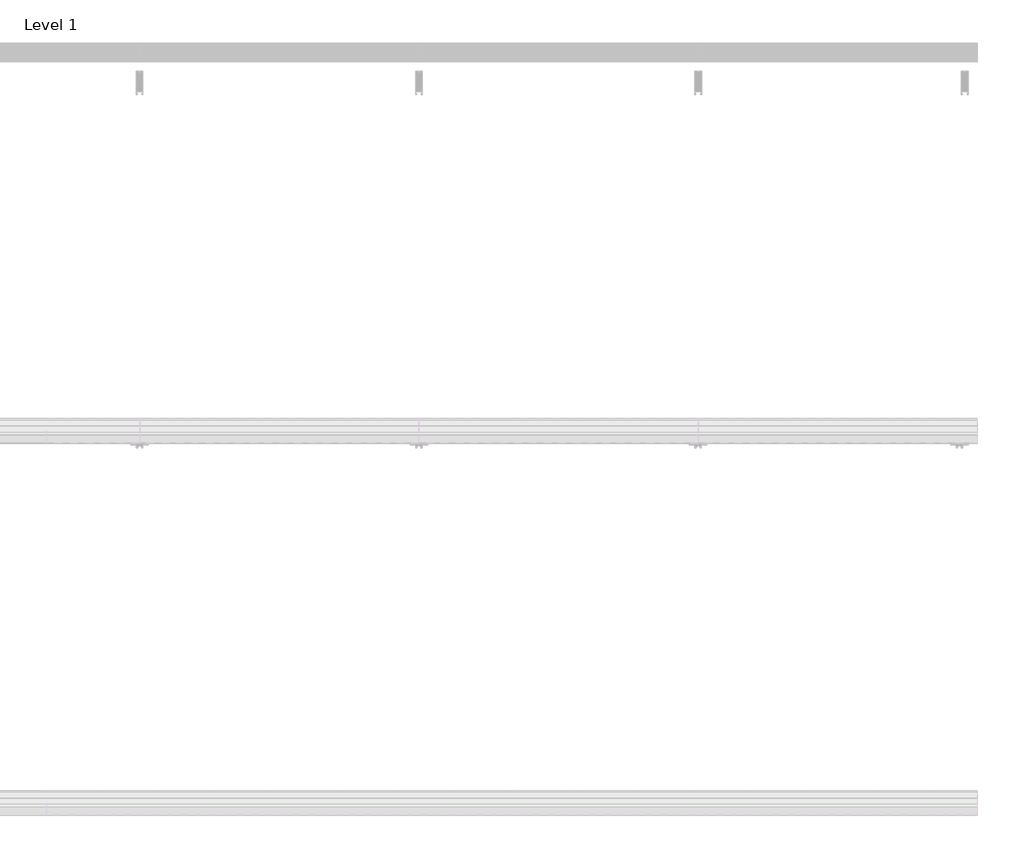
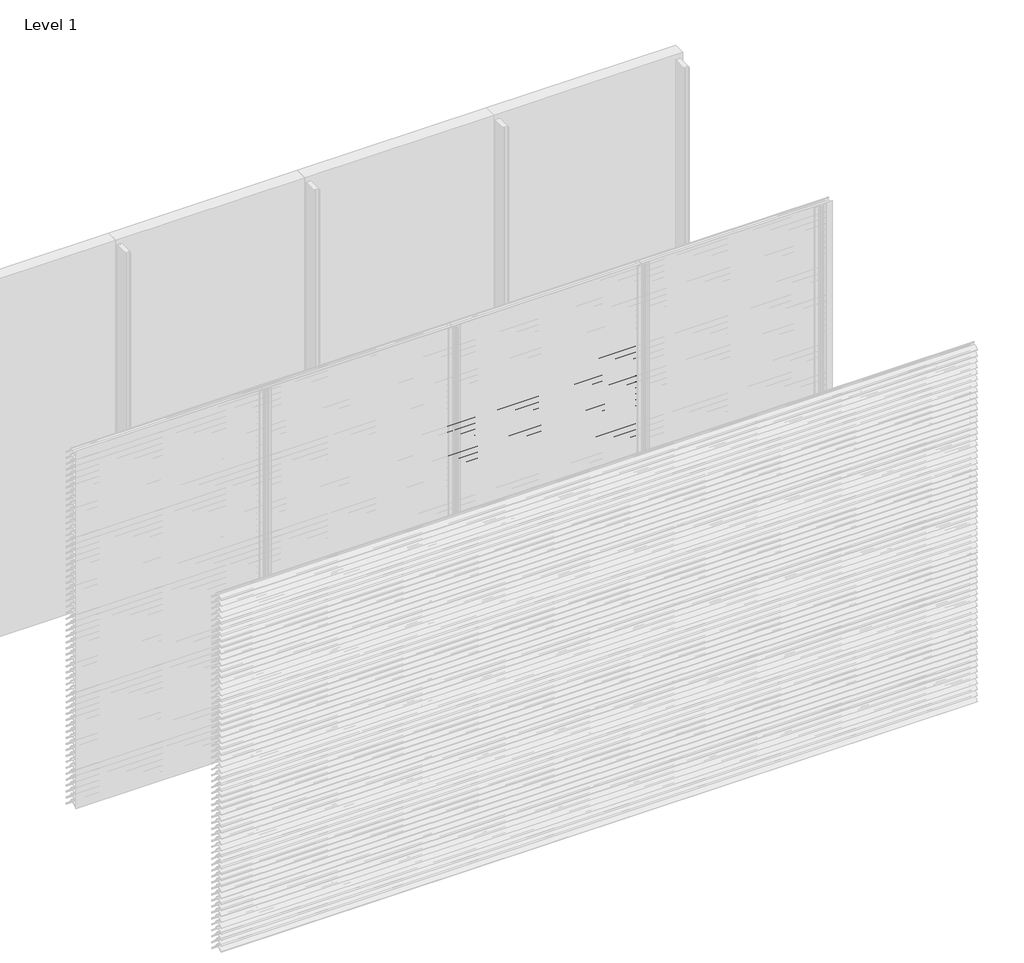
# One storey, part 14 of 173: 17 proxies.
"""IFC4 building model written with IfcOpenShell, lengths in millimetres."""

from ifc_helpers import new_model, si_unit, point, frame, frame_2d, origin, place, context, project, spatial, polyline, circle_curve, trimmed, segment, composite_curve, outline, extrude, element, save

model = new_model("IFC4")

# Units and contexts
model_context = context("Model", 3, world=origin())
ifc_project = project(units=[si_unit("LENGTHUNIT", "METRE", prefix="MILLI")], contexts=[model_context])

# Site, building, storey
site = spatial("IfcSite", under=ifc_project)
building = spatial("IfcBuilding", under=site)
storey = spatial("IfcBuildingStorey", under=building, Name="Level 1", Elevation=0.0)

# Proxies
placement = place(None, origin())
element("IfcBuildingElementProxy", 1, Name="Wall Sweeps", at=placement, inside=storey, context=model_context, shape_type="SweptSolid", body=[
    extrude(outline(composite_curve([segment(polyline([(-53998.0, 2309.1474905), (-53998.0, 2311.6227417)]), True, "CONTINUOUS"), segment(trimmed(circle_curve(frame_2d((-53951.2682172, 2266.2200208)), 65.1557103), [point((-53998.0, 2311.6227417))], [point((-53954.4014323, 2331.3003524))], False, "CARTESIAN"), True, "CONTINUOUS"), segment(polyline([(-53954.4014323, 2331.3003524), (-53934.8315836, 2331.3003524)]), True, "CONTINUOUS"), segment(trimmed(circle_curve(frame_2d((-53732.7329489, 2478.5533172)), 250.0545817), [point((-53934.8315836, 2331.3003524))], [point((-53941.4452143, 2340.8344583))], False, "CARTESIAN"), True, "CONTINUOUS"), segment(trimmed(circle_curve(frame_2d((-53953.2981792, 2335.1737835)), 13.1352966), [point((-53941.4452143, 2340.8344583))], [point((-53953.8171475, 2348.298824))], True, "CARTESIAN"), True, "CONTINUOUS"), segment(polyline([(-53953.8171475, 2348.298824), (-53953.8171475, 2350.0)]), True, "CONTINUOUS"), segment(trimmed(circle_curve(frame_2d((-53953.2981792, 2335.1737835)), 14.8352966), [point((-53953.8171475, 2350.0))], [point((-53939.9637661, 2341.6760487))], False, "CARTESIAN"), True, "CONTINUOUS"), segment(trimmed(circle_curve(frame_2d((-53732.7329489, 2478.5533172)), 248.3545817), [point((-53939.9637661, 2341.6760487))], [point((-53873.8787895, 2274.2059416))], True, "CARTESIAN"), True, "CONTINUOUS"), segment(trimmed(circle_curve(frame_2d((-53883.8147537, 2261.6649442)), 16.0), [point((-53873.8787895, 2274.2059416))], [point((-53867.8648347, 2260.4))], False, "CARTESIAN"), True, "CONTINUOUS"), segment(polyline([(-53867.8648347, 2260.4), (-53869.6712069, 2260.4)]), True, "CONTINUOUS"), segment(trimmed(circle_curve(frame_2d((-53883.8147537, 2261.6649442)), 14.2), [point((-53869.6712069, 2260.4))], [point((-53874.9518628, 2272.7594998))], True, "CARTESIAN"), True, "CONTINUOUS"), segment(trimmed(circle_curve(frame_2d((-53732.7329489, 2478.5533172)), 250.1545817), [point((-53874.9518628, 2272.7594998))], [point((-53933.7064024, 2329.6003524))], False, "CARTESIAN"), True, "CONTINUOUS"), segment(polyline([(-53933.7064024, 2329.6003524), (-53954.3602632, 2329.6003524)]), True, "CONTINUOUS"), segment(trimmed(circle_curve(frame_2d((-53951.2682172, 2266.2200208)), 63.4557103), [point((-53954.3602632, 2329.6003524))], [point((-53998.0, 2309.1474905))], True, "CARTESIAN"), True, "CONTINUOUS")], self_intersect=False)), frame((3000.0, 0.0, 0.0), z_axis=(1.0, 0.0, 0.0), x_axis=(0.0, 1.0, 0.0)), (0.0, 0.0, 1.0), 1500.0),
])
element("IfcBuildingElementProxy", 2, Name="Wall Sweeps", at=placement, inside=storey, context=model_context, shape_type="SweptSolid", body=[
    extrude(outline(composite_curve([segment(polyline([(-53998.0, 2259.1474905), (-53998.0, 2261.6227417)]), True, "CONTINUOUS"), segment(trimmed(circle_curve(frame_2d((-53951.2682172, 2216.2200208)), 65.1557103), [point((-53998.0, 2261.6227417))], [point((-53954.4014323, 2281.3003524))], False, "CARTESIAN"), True, "CONTINUOUS"), segment(polyline([(-53954.4014323, 2281.3003524), (-53934.8315836, 2281.3003524)]), True, "CONTINUOUS"), segment(trimmed(circle_curve(frame_2d((-53732.7329489, 2428.5533172)), 250.0545817), [point((-53934.8315836, 2281.3003524))], [point((-53941.4452143, 2290.8344583))], False, "CARTESIAN"), True, "CONTINUOUS"), segment(trimmed(circle_curve(frame_2d((-53953.2981792, 2285.1737835)), 13.1352966), [point((-53941.4452143, 2290.8344583))], [point((-53953.8171475, 2298.298824))], True, "CARTESIAN"), True, "CONTINUOUS"), segment(polyline([(-53953.8171475, 2298.298824), (-53953.8171475, 2300.0)]), True, "CONTINUOUS"), segment(trimmed(circle_curve(frame_2d((-53953.2981792, 2285.1737835)), 14.8352966), [point((-53953.8171475, 2300.0))], [point((-53939.9637661, 2291.6760487))], False, "CARTESIAN"), True, "CONTINUOUS"), segment(trimmed(circle_curve(frame_2d((-53732.7329489, 2428.5533172)), 248.3545817), [point((-53939.9637661, 2291.6760487))], [point((-53873.8787895, 2224.2059416))], True, "CARTESIAN"), True, "CONTINUOUS"), segment(trimmed(circle_curve(frame_2d((-53883.8147537, 2211.6649442)), 16.0), [point((-53873.8787895, 2224.2059416))], [point((-53867.8648347, 2210.4))], False, "CARTESIAN"), True, "CONTINUOUS"), segment(polyline([(-53867.8648347, 2210.4), (-53869.6712069, 2210.4)]), True, "CONTINUOUS"), segment(trimmed(circle_curve(frame_2d((-53883.8147537, 2211.6649442)), 14.2), [point((-53869.6712069, 2210.4))], [point((-53874.9518628, 2222.7594998))], True, "CARTESIAN"), True, "CONTINUOUS"), segment(trimmed(circle_curve(frame_2d((-53732.7329489, 2428.5533172)), 250.1545817), [point((-53874.9518628, 2222.7594998))], [point((-53933.7064024, 2279.6003524))], False, "CARTESIAN"), True, "CONTINUOUS"), segment(polyline([(-53933.7064024, 2279.6003524), (-53954.3602632, 2279.6003524)]), True, "CONTINUOUS"), segment(trimmed(circle_curve(frame_2d((-53951.2682172, 2216.2200208)), 63.4557103), [point((-53954.3602632, 2279.6003524))], [point((-53998.0, 2259.1474905))], True, "CARTESIAN"), True, "CONTINUOUS")], self_intersect=False)), frame((3000.0, 0.0, 0.0), z_axis=(1.0, 0.0, 0.0), x_axis=(0.0, 1.0, 0.0)), (0.0, 0.0, 1.0), 1500.0),
])
element("IfcBuildingElementProxy", 3, Name="Wall Sweeps", at=placement, inside=storey, context=model_context, shape_type="SweptSolid", body=[
    extrude(outline(composite_curve([segment(polyline([(-53998.0, 2209.1474905), (-53998.0, 2211.6227417)]), True, "CONTINUOUS"), segment(trimmed(circle_curve(frame_2d((-53951.2682172, 2166.2200208)), 65.1557103), [point((-53998.0, 2211.6227417))], [point((-53954.4014323, 2231.3003524))], False, "CARTESIAN"), True, "CONTINUOUS"), segment(polyline([(-53954.4014323, 2231.3003524), (-53934.8315836, 2231.3003524)]), True, "CONTINUOUS"), segment(trimmed(circle_curve(frame_2d((-53732.7329489, 2378.5533172)), 250.0545817), [point((-53934.8315836, 2231.3003524))], [point((-53941.4452143, 2240.8344583))], False, "CARTESIAN"), True, "CONTINUOUS"), segment(trimmed(circle_curve(frame_2d((-53953.2981792, 2235.1737835)), 13.1352966), [point((-53941.4452143, 2240.8344583))], [point((-53953.8171475, 2248.298824))], True, "CARTESIAN"), True, "CONTINUOUS"), segment(polyline([(-53953.8171475, 2248.298824), (-53953.8171475, 2250.0)]), True, "CONTINUOUS"), segment(trimmed(circle_curve(frame_2d((-53953.2981792, 2235.1737835)), 14.8352966), [point((-53953.8171475, 2250.0))], [point((-53939.9637661, 2241.6760487))], False, "CARTESIAN"), True, "CONTINUOUS"), segment(trimmed(circle_curve(frame_2d((-53732.7329489, 2378.5533172)), 248.3545817), [point((-53939.9637661, 2241.6760487))], [point((-53873.8787895, 2174.2059416))], True, "CARTESIAN"), True, "CONTINUOUS"), segment(trimmed(circle_curve(frame_2d((-53883.8147537, 2161.6649442)), 16.0), [point((-53873.8787895, 2174.2059416))], [point((-53867.8648347, 2160.4))], False, "CARTESIAN"), True, "CONTINUOUS"), segment(polyline([(-53867.8648347, 2160.4), (-53869.6712069, 2160.4)]), True, "CONTINUOUS"), segment(trimmed(circle_curve(frame_2d((-53883.8147537, 2161.6649442)), 14.2), [point((-53869.6712069, 2160.4))], [point((-53874.9518628, 2172.7594998))], True, "CARTESIAN"), True, "CONTINUOUS"), segment(trimmed(circle_curve(frame_2d((-53732.7329489, 2378.5533172)), 250.1545817), [point((-53874.9518628, 2172.7594998))], [point((-53933.7064024, 2229.6003524))], False, "CARTESIAN"), True, "CONTINUOUS"), segment(polyline([(-53933.7064024, 2229.6003524), (-53954.3602632, 2229.6003524)]), True, "CONTINUOUS"), segment(trimmed(circle_curve(frame_2d((-53951.2682172, 2166.2200208)), 63.4557103), [point((-53954.3602632, 2229.6003524))], [point((-53998.0, 2209.1474905))], True, "CARTESIAN"), True, "CONTINUOUS")], self_intersect=False)), frame((3000.0, 0.0, 0.0), z_axis=(1.0, 0.0, 0.0), x_axis=(0.0, 1.0, 0.0)), (0.0, 0.0, 1.0), 1500.0),
])
element("IfcBuildingElementProxy", 4, Name="Wall Sweeps", at=placement, inside=storey, context=model_context, shape_type="SweptSolid", body=[
    extrude(outline(composite_curve([segment(polyline([(-53998.0, 2159.1474905), (-53998.0, 2161.6227417)]), True, "CONTINUOUS"), segment(trimmed(circle_curve(frame_2d((-53951.2682172, 2116.2200208)), 65.1557103), [point((-53998.0, 2161.6227417))], [point((-53954.4014323, 2181.3003524))], False, "CARTESIAN"), True, "CONTINUOUS"), segment(polyline([(-53954.4014323, 2181.3003524), (-53934.8315836, 2181.3003524)]), True, "CONTINUOUS"), segment(trimmed(circle_curve(frame_2d((-53732.7329489, 2328.5533172)), 250.0545817), [point((-53934.8315836, 2181.3003524))], [point((-53941.4452143, 2190.8344583))], False, "CARTESIAN"), True, "CONTINUOUS"), segment(trimmed(circle_curve(frame_2d((-53953.2981792, 2185.1737835)), 13.1352966), [point((-53941.4452143, 2190.8344583))], [point((-53953.8171475, 2198.298824))], True, "CARTESIAN"), True, "CONTINUOUS"), segment(polyline([(-53953.8171475, 2198.298824), (-53953.8171475, 2200.0)]), True, "CONTINUOUS"), segment(trimmed(circle_curve(frame_2d((-53953.2981792, 2185.1737835)), 14.8352966), [point((-53953.8171475, 2200.0))], [point((-53939.9637661, 2191.6760487))], False, "CARTESIAN"), True, "CONTINUOUS"), segment(trimmed(circle_curve(frame_2d((-53732.7329489, 2328.5533172)), 248.3545817), [point((-53939.9637661, 2191.6760487))], [point((-53873.8787895, 2124.2059416))], True, "CARTESIAN"), True, "CONTINUOUS"), segment(trimmed(circle_curve(frame_2d((-53883.8147537, 2111.6649442)), 16.0), [point((-53873.8787895, 2124.2059416))], [point((-53867.8648347, 2110.4))], False, "CARTESIAN"), True, "CONTINUOUS"), segment(polyline([(-53867.8648347, 2110.4), (-53869.6712069, 2110.4)]), True, "CONTINUOUS"), segment(trimmed(circle_curve(frame_2d((-53883.8147537, 2111.6649442)), 14.2), [point((-53869.6712069, 2110.4))], [point((-53874.9518628, 2122.7594998))], True, "CARTESIAN"), True, "CONTINUOUS"), segment(trimmed(circle_curve(frame_2d((-53732.7329489, 2328.5533172)), 250.1545817), [point((-53874.9518628, 2122.7594998))], [point((-53933.7064024, 2179.6003524))], False, "CARTESIAN"), True, "CONTINUOUS"), segment(polyline([(-53933.7064024, 2179.6003524), (-53954.3602632, 2179.6003524)]), True, "CONTINUOUS"), segment(trimmed(circle_curve(frame_2d((-53951.2682172, 2116.2200208)), 63.4557103), [point((-53954.3602632, 2179.6003524))], [point((-53998.0, 2159.1474905))], True, "CARTESIAN"), True, "CONTINUOUS")], self_intersect=False)), frame((3000.0, 0.0, 0.0), z_axis=(1.0, 0.0, 0.0), x_axis=(0.0, 1.0, 0.0)), (0.0, 0.0, 1.0), 1500.0),
])
element("IfcBuildingElementProxy", 5, Name="Wall Sweeps", at=placement, inside=storey, context=model_context, shape_type="SweptSolid", body=[
    extrude(outline(composite_curve([segment(polyline([(-53998.0, 2109.1474905), (-53998.0, 2111.6227417)]), True, "CONTINUOUS"), segment(trimmed(circle_curve(frame_2d((-53951.2682172, 2066.2200208)), 65.1557103), [point((-53998.0, 2111.6227417))], [point((-53954.4014323, 2131.3003524))], False, "CARTESIAN"), True, "CONTINUOUS"), segment(polyline([(-53954.4014323, 2131.3003524), (-53934.8315836, 2131.3003524)]), True, "CONTINUOUS"), segment(trimmed(circle_curve(frame_2d((-53732.7329489, 2278.5533172)), 250.0545817), [point((-53934.8315836, 2131.3003524))], [point((-53941.4452143, 2140.8344583))], False, "CARTESIAN"), True, "CONTINUOUS"), segment(trimmed(circle_curve(frame_2d((-53953.2981792, 2135.1737835)), 13.1352966), [point((-53941.4452143, 2140.8344583))], [point((-53953.8171475, 2148.298824))], True, "CARTESIAN"), True, "CONTINUOUS"), segment(polyline([(-53953.8171475, 2148.298824), (-53953.8171475, 2150.0)]), True, "CONTINUOUS"), segment(trimmed(circle_curve(frame_2d((-53953.2981792, 2135.1737835)), 14.8352966), [point((-53953.8171475, 2150.0))], [point((-53939.9637661, 2141.6760487))], False, "CARTESIAN"), True, "CONTINUOUS"), segment(trimmed(circle_curve(frame_2d((-53732.7329489, 2278.5533172)), 248.3545817), [point((-53939.9637661, 2141.6760487))], [point((-53873.8787895, 2074.2059416))], True, "CARTESIAN"), True, "CONTINUOUS"), segment(trimmed(circle_curve(frame_2d((-53883.8147537, 2061.6649442)), 16.0), [point((-53873.8787895, 2074.2059416))], [point((-53867.8648347, 2060.4))], False, "CARTESIAN"), True, "CONTINUOUS"), segment(polyline([(-53867.8648347, 2060.4), (-53869.6712069, 2060.4)]), True, "CONTINUOUS"), segment(trimmed(circle_curve(frame_2d((-53883.8147537, 2061.6649442)), 14.2), [point((-53869.6712069, 2060.4))], [point((-53874.9518628, 2072.7594998))], True, "CARTESIAN"), True, "CONTINUOUS"), segment(trimmed(circle_curve(frame_2d((-53732.7329489, 2278.5533172)), 250.1545817), [point((-53874.9518628, 2072.7594998))], [point((-53933.7064024, 2129.6003524))], False, "CARTESIAN"), True, "CONTINUOUS"), segment(polyline([(-53933.7064024, 2129.6003524), (-53954.3602632, 2129.6003524)]), True, "CONTINUOUS"), segment(trimmed(circle_curve(frame_2d((-53951.2682172, 2066.2200208)), 63.4557103), [point((-53954.3602632, 2129.6003524))], [point((-53998.0, 2109.1474905))], True, "CARTESIAN"), True, "CONTINUOUS")], self_intersect=False)), frame((3000.0, 0.0, 0.0), z_axis=(1.0, 0.0, 0.0), x_axis=(0.0, 1.0, 0.0)), (0.0, 0.0, 1.0), 1500.0),
])
element("IfcBuildingElementProxy", 6, Name="Wall Sweeps", at=placement, inside=storey, context=model_context, shape_type="SweptSolid", body=[
    extrude(outline(composite_curve([segment(polyline([(-53998.0, 2059.1474905), (-53998.0, 2061.6227417)]), True, "CONTINUOUS"), segment(trimmed(circle_curve(frame_2d((-53951.2682172, 2016.2200208)), 65.1557103), [point((-53998.0, 2061.6227417))], [point((-53954.4014323, 2081.3003524))], False, "CARTESIAN"), True, "CONTINUOUS"), segment(polyline([(-53954.4014323, 2081.3003524), (-53934.8315836, 2081.3003524)]), True, "CONTINUOUS"), segment(trimmed(circle_curve(frame_2d((-53732.7329489, 2228.5533172)), 250.0545817), [point((-53934.8315836, 2081.3003524))], [point((-53941.4452143, 2090.8344583))], False, "CARTESIAN"), True, "CONTINUOUS"), segment(trimmed(circle_curve(frame_2d((-53953.2981792, 2085.1737835)), 13.1352966), [point((-53941.4452143, 2090.8344583))], [point((-53953.8171475, 2098.298824))], True, "CARTESIAN"), True, "CONTINUOUS"), segment(polyline([(-53953.8171475, 2098.298824), (-53953.8171475, 2100.0)]), True, "CONTINUOUS"), segment(trimmed(circle_curve(frame_2d((-53953.2981792, 2085.1737835)), 14.8352966), [point((-53953.8171475, 2100.0))], [point((-53939.9637661, 2091.6760487))], False, "CARTESIAN"), True, "CONTINUOUS"), segment(trimmed(circle_curve(frame_2d((-53732.7329489, 2228.5533172)), 248.3545817), [point((-53939.9637661, 2091.6760487))], [point((-53873.8787895, 2024.2059416))], True, "CARTESIAN"), True, "CONTINUOUS"), segment(trimmed(circle_curve(frame_2d((-53883.8147537, 2011.6649442)), 16.0), [point((-53873.8787895, 2024.2059416))], [point((-53867.8648347, 2010.4))], False, "CARTESIAN"), True, "CONTINUOUS"), segment(polyline([(-53867.8648347, 2010.4), (-53869.6712069, 2010.4)]), True, "CONTINUOUS"), segment(trimmed(circle_curve(frame_2d((-53883.8147537, 2011.6649442)), 14.2), [point((-53869.6712069, 2010.4))], [point((-53874.9518628, 2022.7594998))], True, "CARTESIAN"), True, "CONTINUOUS"), segment(trimmed(circle_curve(frame_2d((-53732.7329489, 2228.5533172)), 250.1545817), [point((-53874.9518628, 2022.7594998))], [point((-53933.7064024, 2079.6003524))], False, "CARTESIAN"), True, "CONTINUOUS"), segment(polyline([(-53933.7064024, 2079.6003524), (-53954.3602632, 2079.6003524)]), True, "CONTINUOUS"), segment(trimmed(circle_curve(frame_2d((-53951.2682172, 2016.2200208)), 63.4557103), [point((-53954.3602632, 2079.6003524))], [point((-53998.0, 2059.1474905))], True, "CARTESIAN"), True, "CONTINUOUS")], self_intersect=False)), frame((3000.0, 0.0, 0.0), z_axis=(1.0, 0.0, 0.0), x_axis=(0.0, 1.0, 0.0)), (0.0, 0.0, 1.0), 1500.0),
])
element("IfcBuildingElementProxy", 7, Name="Wall Sweeps", at=placement, inside=storey, context=model_context, shape_type="SweptSolid", body=[
    extrude(outline(composite_curve([segment(polyline([(-53998.0, 2009.1474905), (-53998.0, 2011.6227417)]), True, "CONTINUOUS"), segment(trimmed(circle_curve(frame_2d((-53951.2682172, 1966.2200208)), 65.1557103), [point((-53998.0, 2011.6227417))], [point((-53954.4014323, 2031.3003524))], False, "CARTESIAN"), True, "CONTINUOUS"), segment(polyline([(-53954.4014323, 2031.3003524), (-53934.8315836, 2031.3003524)]), True, "CONTINUOUS"), segment(trimmed(circle_curve(frame_2d((-53732.7329489, 2178.5533172)), 250.0545817), [point((-53934.8315836, 2031.3003524))], [point((-53941.4452143, 2040.8344583))], False, "CARTESIAN"), True, "CONTINUOUS"), segment(trimmed(circle_curve(frame_2d((-53953.2981792, 2035.1737835)), 13.1352966), [point((-53941.4452143, 2040.8344583))], [point((-53953.8171475, 2048.298824))], True, "CARTESIAN"), True, "CONTINUOUS"), segment(polyline([(-53953.8171475, 2048.298824), (-53953.8171475, 2050.0)]), True, "CONTINUOUS"), segment(trimmed(circle_curve(frame_2d((-53953.2981792, 2035.1737835)), 14.8352966), [point((-53953.8171475, 2050.0))], [point((-53939.9637661, 2041.6760487))], False, "CARTESIAN"), True, "CONTINUOUS"), segment(trimmed(circle_curve(frame_2d((-53732.7329489, 2178.5533172)), 248.3545817), [point((-53939.9637661, 2041.6760487))], [point((-53873.8787895, 1974.2059416))], True, "CARTESIAN"), True, "CONTINUOUS"), segment(trimmed(circle_curve(frame_2d((-53883.8147537, 1961.6649442)), 16.0), [point((-53873.8787895, 1974.2059416))], [point((-53867.8648347, 1960.4))], False, "CARTESIAN"), True, "CONTINUOUS"), segment(polyline([(-53867.8648347, 1960.4), (-53869.6712069, 1960.4)]), True, "CONTINUOUS"), segment(trimmed(circle_curve(frame_2d((-53883.8147537, 1961.6649442)), 14.2), [point((-53869.6712069, 1960.4))], [point((-53874.9518628, 1972.7594998))], True, "CARTESIAN"), True, "CONTINUOUS"), segment(trimmed(circle_curve(frame_2d((-53732.7329489, 2178.5533172)), 250.1545817), [point((-53874.9518628, 1972.7594998))], [point((-53933.7064024, 2029.6003524))], False, "CARTESIAN"), True, "CONTINUOUS"), segment(polyline([(-53933.7064024, 2029.6003524), (-53954.3602632, 2029.6003524)]), True, "CONTINUOUS"), segment(trimmed(circle_curve(frame_2d((-53951.2682172, 1966.2200208)), 63.4557103), [point((-53954.3602632, 2029.6003524))], [point((-53998.0, 2009.1474905))], True, "CARTESIAN"), True, "CONTINUOUS")], self_intersect=False)), frame((3000.0, 0.0, 0.0), z_axis=(1.0, 0.0, 0.0), x_axis=(0.0, 1.0, 0.0)), (0.0, 0.0, 1.0), 1500.0),
])
element("IfcBuildingElementProxy", 8, Name="Wall Sweeps", at=placement, inside=storey, context=model_context, shape_type="SweptSolid", body=[
    extrude(outline(composite_curve([segment(polyline([(-53998.0, 1959.1474905), (-53998.0, 1961.6227417)]), True, "CONTINUOUS"), segment(trimmed(circle_curve(frame_2d((-53951.2682172, 1916.2200208)), 65.1557103), [point((-53998.0, 1961.6227417))], [point((-53954.4014323, 1981.3003524))], False, "CARTESIAN"), True, "CONTINUOUS"), segment(polyline([(-53954.4014323, 1981.3003524), (-53934.8315836, 1981.3003524)]), True, "CONTINUOUS"), segment(trimmed(circle_curve(frame_2d((-53732.7329489, 2128.5533172)), 250.0545817), [point((-53934.8315836, 1981.3003524))], [point((-53941.4452143, 1990.8344583))], False, "CARTESIAN"), True, "CONTINUOUS"), segment(trimmed(circle_curve(frame_2d((-53953.2981792, 1985.1737835)), 13.1352966), [point((-53941.4452143, 1990.8344583))], [point((-53953.8171475, 1998.298824))], True, "CARTESIAN"), True, "CONTINUOUS"), segment(polyline([(-53953.8171475, 1998.298824), (-53953.8171475, 2000.0)]), True, "CONTINUOUS"), segment(trimmed(circle_curve(frame_2d((-53953.2981792, 1985.1737835)), 14.8352966), [point((-53953.8171475, 2000.0))], [point((-53939.9637661, 1991.6760487))], False, "CARTESIAN"), True, "CONTINUOUS"), segment(trimmed(circle_curve(frame_2d((-53732.7329489, 2128.5533172)), 248.3545817), [point((-53939.9637661, 1991.6760487))], [point((-53873.8787895, 1924.2059416))], True, "CARTESIAN"), True, "CONTINUOUS"), segment(trimmed(circle_curve(frame_2d((-53883.8147537, 1911.6649442)), 16.0), [point((-53873.8787895, 1924.2059416))], [point((-53867.8648347, 1910.4))], False, "CARTESIAN"), True, "CONTINUOUS"), segment(polyline([(-53867.8648347, 1910.4), (-53869.6712069, 1910.4)]), True, "CONTINUOUS"), segment(trimmed(circle_curve(frame_2d((-53883.8147537, 1911.6649442)), 14.2), [point((-53869.6712069, 1910.4))], [point((-53874.9518628, 1922.7594998))], True, "CARTESIAN"), True, "CONTINUOUS"), segment(trimmed(circle_curve(frame_2d((-53732.7329489, 2128.5533172)), 250.1545817), [point((-53874.9518628, 1922.7594998))], [point((-53933.7064024, 1979.6003524))], False, "CARTESIAN"), True, "CONTINUOUS"), segment(polyline([(-53933.7064024, 1979.6003524), (-53954.3602632, 1979.6003524)]), True, "CONTINUOUS"), segment(trimmed(circle_curve(frame_2d((-53951.2682172, 1916.2200208)), 63.4557103), [point((-53954.3602632, 1979.6003524))], [point((-53998.0, 1959.1474905))], True, "CARTESIAN"), True, "CONTINUOUS")], self_intersect=False)), frame((3000.0, 0.0, 0.0), z_axis=(1.0, 0.0, 0.0), x_axis=(0.0, 1.0, 0.0)), (0.0, 0.0, 1.0), 1500.0),
])
element("IfcBuildingElementProxy", 9, Name="Wall Sweeps", at=placement, inside=storey, context=model_context, shape_type="SweptSolid", body=[
    extrude(outline(composite_curve([segment(polyline([(-53998.0, 1909.1474905), (-53998.0, 1911.6227417)]), True, "CONTINUOUS"), segment(trimmed(circle_curve(frame_2d((-53951.2682172, 1866.2200208)), 65.1557103), [point((-53998.0, 1911.6227417))], [point((-53954.4014323, 1931.3003524))], False, "CARTESIAN"), True, "CONTINUOUS"), segment(polyline([(-53954.4014323, 1931.3003524), (-53934.8315836, 1931.3003524)]), True, "CONTINUOUS"), segment(trimmed(circle_curve(frame_2d((-53732.7329489, 2078.5533172)), 250.0545817), [point((-53934.8315836, 1931.3003524))], [point((-53941.4452143, 1940.8344583))], False, "CARTESIAN"), True, "CONTINUOUS"), segment(trimmed(circle_curve(frame_2d((-53953.2981792, 1935.1737835)), 13.1352966), [point((-53941.4452143, 1940.8344583))], [point((-53953.8171475, 1948.298824))], True, "CARTESIAN"), True, "CONTINUOUS"), segment(polyline([(-53953.8171475, 1948.298824), (-53953.8171475, 1950.0)]), True, "CONTINUOUS"), segment(trimmed(circle_curve(frame_2d((-53953.2981792, 1935.1737835)), 14.8352966), [point((-53953.8171475, 1950.0))], [point((-53939.9637661, 1941.6760487))], False, "CARTESIAN"), True, "CONTINUOUS"), segment(trimmed(circle_curve(frame_2d((-53732.7329489, 2078.5533172)), 248.3545817), [point((-53939.9637661, 1941.6760487))], [point((-53873.8787895, 1874.2059416))], True, "CARTESIAN"), True, "CONTINUOUS"), segment(trimmed(circle_curve(frame_2d((-53883.8147537, 1861.6649442)), 16.0), [point((-53873.8787895, 1874.2059416))], [point((-53867.8648347, 1860.4))], False, "CARTESIAN"), True, "CONTINUOUS"), segment(polyline([(-53867.8648347, 1860.4), (-53869.6712069, 1860.4)]), True, "CONTINUOUS"), segment(trimmed(circle_curve(frame_2d((-53883.8147537, 1861.6649442)), 14.2), [point((-53869.6712069, 1860.4))], [point((-53874.9518628, 1872.7594998))], True, "CARTESIAN"), True, "CONTINUOUS"), segment(trimmed(circle_curve(frame_2d((-53732.7329489, 2078.5533172)), 250.1545817), [point((-53874.9518628, 1872.7594998))], [point((-53933.7064024, 1929.6003524))], False, "CARTESIAN"), True, "CONTINUOUS"), segment(polyline([(-53933.7064024, 1929.6003524), (-53954.3602632, 1929.6003524)]), True, "CONTINUOUS"), segment(trimmed(circle_curve(frame_2d((-53951.2682172, 1866.2200208)), 63.4557103), [point((-53954.3602632, 1929.6003524))], [point((-53998.0, 1909.1474905))], True, "CARTESIAN"), True, "CONTINUOUS")], self_intersect=False)), frame((3000.0, 0.0, 0.0), z_axis=(1.0, 0.0, 0.0), x_axis=(0.0, 1.0, 0.0)), (0.0, 0.0, 1.0), 1500.0),
])
element("IfcBuildingElementProxy", 10, Name="Wall Sweeps", at=placement, inside=storey, context=model_context, shape_type="SweptSolid", body=[
    extrude(outline(composite_curve([segment(polyline([(-53998.0, 1859.1474905), (-53998.0, 1861.6227417)]), True, "CONTINUOUS"), segment(trimmed(circle_curve(frame_2d((-53951.2682172, 1816.2200208)), 65.1557103), [point((-53998.0, 1861.6227417))], [point((-53954.4014323, 1881.3003524))], False, "CARTESIAN"), True, "CONTINUOUS"), segment(polyline([(-53954.4014323, 1881.3003524), (-53934.8315836, 1881.3003524)]), True, "CONTINUOUS"), segment(trimmed(circle_curve(frame_2d((-53732.7329489, 2028.5533172)), 250.0545817), [point((-53934.8315836, 1881.3003524))], [point((-53941.4452143, 1890.8344583))], False, "CARTESIAN"), True, "CONTINUOUS"), segment(trimmed(circle_curve(frame_2d((-53953.2981792, 1885.1737835)), 13.1352966), [point((-53941.4452143, 1890.8344583))], [point((-53953.8171475, 1898.298824))], True, "CARTESIAN"), True, "CONTINUOUS"), segment(polyline([(-53953.8171475, 1898.298824), (-53953.8171475, 1900.0)]), True, "CONTINUOUS"), segment(trimmed(circle_curve(frame_2d((-53953.2981792, 1885.1737835)), 14.8352966), [point((-53953.8171475, 1900.0))], [point((-53939.9637661, 1891.6760487))], False, "CARTESIAN"), True, "CONTINUOUS"), segment(trimmed(circle_curve(frame_2d((-53732.7329489, 2028.5533172)), 248.3545817), [point((-53939.9637661, 1891.6760487))], [point((-53873.8787895, 1824.2059416))], True, "CARTESIAN"), True, "CONTINUOUS"), segment(trimmed(circle_curve(frame_2d((-53883.8147537, 1811.6649442)), 16.0), [point((-53873.8787895, 1824.2059416))], [point((-53867.8648347, 1810.4))], False, "CARTESIAN"), True, "CONTINUOUS"), segment(polyline([(-53867.8648347, 1810.4), (-53869.6712069, 1810.4)]), True, "CONTINUOUS"), segment(trimmed(circle_curve(frame_2d((-53883.8147537, 1811.6649442)), 14.2), [point((-53869.6712069, 1810.4))], [point((-53874.9518628, 1822.7594998))], True, "CARTESIAN"), True, "CONTINUOUS"), segment(trimmed(circle_curve(frame_2d((-53732.7329489, 2028.5533172)), 250.1545817), [point((-53874.9518628, 1822.7594998))], [point((-53933.7064024, 1879.6003524))], False, "CARTESIAN"), True, "CONTINUOUS"), segment(polyline([(-53933.7064024, 1879.6003524), (-53954.3602632, 1879.6003524)]), True, "CONTINUOUS"), segment(trimmed(circle_curve(frame_2d((-53951.2682172, 1816.2200208)), 63.4557103), [point((-53954.3602632, 1879.6003524))], [point((-53998.0, 1859.1474905))], True, "CARTESIAN"), True, "CONTINUOUS")], self_intersect=False)), frame((3000.0, 0.0, 0.0), z_axis=(1.0, 0.0, 0.0), x_axis=(0.0, 1.0, 0.0)), (0.0, 0.0, 1.0), 1500.0),
])
element("IfcBuildingElementProxy", 11, Name="Wall Sweeps", at=placement, inside=storey, context=model_context, shape_type="SweptSolid", body=[
    extrude(outline(composite_curve([segment(polyline([(-53998.0, 1809.1474905), (-53998.0, 1811.6227417)]), True, "CONTINUOUS"), segment(trimmed(circle_curve(frame_2d((-53951.2682172, 1766.2200208)), 65.1557103), [point((-53998.0, 1811.6227417))], [point((-53954.4014323, 1831.3003524))], False, "CARTESIAN"), True, "CONTINUOUS"), segment(polyline([(-53954.4014323, 1831.3003524), (-53934.8315836, 1831.3003524)]), True, "CONTINUOUS"), segment(trimmed(circle_curve(frame_2d((-53732.7329489, 1978.5533172)), 250.0545817), [point((-53934.8315836, 1831.3003524))], [point((-53941.4452143, 1840.8344583))], False, "CARTESIAN"), True, "CONTINUOUS"), segment(trimmed(circle_curve(frame_2d((-53953.2981792, 1835.1737835)), 13.1352966), [point((-53941.4452143, 1840.8344583))], [point((-53953.8171475, 1848.298824))], True, "CARTESIAN"), True, "CONTINUOUS"), segment(polyline([(-53953.8171475, 1848.298824), (-53953.8171475, 1850.0)]), True, "CONTINUOUS"), segment(trimmed(circle_curve(frame_2d((-53953.2981792, 1835.1737835)), 14.8352966), [point((-53953.8171475, 1850.0))], [point((-53939.9637661, 1841.6760487))], False, "CARTESIAN"), True, "CONTINUOUS"), segment(trimmed(circle_curve(frame_2d((-53732.7329489, 1978.5533172)), 248.3545817), [point((-53939.9637661, 1841.6760487))], [point((-53873.8787895, 1774.2059416))], True, "CARTESIAN"), True, "CONTINUOUS"), segment(trimmed(circle_curve(frame_2d((-53883.8147537, 1761.6649442)), 16.0), [point((-53873.8787895, 1774.2059416))], [point((-53867.8648347, 1760.4))], False, "CARTESIAN"), True, "CONTINUOUS"), segment(polyline([(-53867.8648347, 1760.4), (-53869.6712069, 1760.4)]), True, "CONTINUOUS"), segment(trimmed(circle_curve(frame_2d((-53883.8147537, 1761.6649442)), 14.2), [point((-53869.6712069, 1760.4))], [point((-53874.9518628, 1772.7594998))], True, "CARTESIAN"), True, "CONTINUOUS"), segment(trimmed(circle_curve(frame_2d((-53732.7329489, 1978.5533172)), 250.1545817), [point((-53874.9518628, 1772.7594998))], [point((-53933.7064024, 1829.6003524))], False, "CARTESIAN"), True, "CONTINUOUS"), segment(polyline([(-53933.7064024, 1829.6003524), (-53954.3602632, 1829.6003524)]), True, "CONTINUOUS"), segment(trimmed(circle_curve(frame_2d((-53951.2682172, 1766.2200208)), 63.4557103), [point((-53954.3602632, 1829.6003524))], [point((-53998.0, 1809.1474905))], True, "CARTESIAN"), True, "CONTINUOUS")], self_intersect=False)), frame((3000.0, 0.0, 0.0), z_axis=(1.0, 0.0, 0.0), x_axis=(0.0, 1.0, 0.0)), (0.0, 0.0, 1.0), 1500.0),
])
element("IfcBuildingElementProxy", 12, Name="Wall Sweeps", at=placement, inside=storey, context=model_context, shape_type="SweptSolid", body=[
    extrude(outline(composite_curve([segment(polyline([(-53998.0, 1759.1474905), (-53998.0, 1761.6227417)]), True, "CONTINUOUS"), segment(trimmed(circle_curve(frame_2d((-53951.2682172, 1716.2200208)), 65.1557103), [point((-53998.0, 1761.6227417))], [point((-53954.4014323, 1781.3003524))], False, "CARTESIAN"), True, "CONTINUOUS"), segment(polyline([(-53954.4014323, 1781.3003524), (-53934.8315836, 1781.3003524)]), True, "CONTINUOUS"), segment(trimmed(circle_curve(frame_2d((-53732.7329489, 1928.5533172)), 250.0545817), [point((-53934.8315836, 1781.3003524))], [point((-53941.4452143, 1790.8344583))], False, "CARTESIAN"), True, "CONTINUOUS"), segment(trimmed(circle_curve(frame_2d((-53953.2981792, 1785.1737835)), 13.1352966), [point((-53941.4452143, 1790.8344583))], [point((-53953.8171475, 1798.298824))], True, "CARTESIAN"), True, "CONTINUOUS"), segment(polyline([(-53953.8171475, 1798.298824), (-53953.8171475, 1800.0)]), True, "CONTINUOUS"), segment(trimmed(circle_curve(frame_2d((-53953.2981792, 1785.1737835)), 14.8352966), [point((-53953.8171475, 1800.0))], [point((-53939.9637661, 1791.6760487))], False, "CARTESIAN"), True, "CONTINUOUS"), segment(trimmed(circle_curve(frame_2d((-53732.7329489, 1928.5533172)), 248.3545817), [point((-53939.9637661, 1791.6760487))], [point((-53873.8787895, 1724.2059416))], True, "CARTESIAN"), True, "CONTINUOUS"), segment(trimmed(circle_curve(frame_2d((-53883.8147537, 1711.6649442)), 16.0), [point((-53873.8787895, 1724.2059416))], [point((-53867.8648347, 1710.4))], False, "CARTESIAN"), True, "CONTINUOUS"), segment(polyline([(-53867.8648347, 1710.4), (-53869.6712069, 1710.4)]), True, "CONTINUOUS"), segment(trimmed(circle_curve(frame_2d((-53883.8147537, 1711.6649442)), 14.2), [point((-53869.6712069, 1710.4))], [point((-53874.9518628, 1722.7594998))], True, "CARTESIAN"), True, "CONTINUOUS"), segment(trimmed(circle_curve(frame_2d((-53732.7329489, 1928.5533172)), 250.1545817), [point((-53874.9518628, 1722.7594998))], [point((-53933.7064024, 1779.6003524))], False, "CARTESIAN"), True, "CONTINUOUS"), segment(polyline([(-53933.7064024, 1779.6003524), (-53954.3602632, 1779.6003524)]), True, "CONTINUOUS"), segment(trimmed(circle_curve(frame_2d((-53951.2682172, 1716.2200208)), 63.4557103), [point((-53954.3602632, 1779.6003524))], [point((-53998.0, 1759.1474905))], True, "CARTESIAN"), True, "CONTINUOUS")], self_intersect=False)), frame((3000.0, 0.0, 0.0), z_axis=(1.0, 0.0, 0.0), x_axis=(0.0, 1.0, 0.0)), (0.0, 0.0, 1.0), 1500.0),
])
element("IfcBuildingElementProxy", 13, Name="Wall Sweeps", at=placement, inside=storey, context=model_context, shape_type="SweptSolid", body=[
    extrude(outline(composite_curve([segment(polyline([(-53998.0, 1709.1474905), (-53998.0, 1711.6227417)]), True, "CONTINUOUS"), segment(trimmed(circle_curve(frame_2d((-53951.2682172, 1666.2200208)), 65.1557103), [point((-53998.0, 1711.6227417))], [point((-53954.4014323, 1731.3003524))], False, "CARTESIAN"), True, "CONTINUOUS"), segment(polyline([(-53954.4014323, 1731.3003524), (-53934.8315836, 1731.3003524)]), True, "CONTINUOUS"), segment(trimmed(circle_curve(frame_2d((-53732.7329489, 1878.5533172)), 250.0545817), [point((-53934.8315836, 1731.3003524))], [point((-53941.4452143, 1740.8344583))], False, "CARTESIAN"), True, "CONTINUOUS"), segment(trimmed(circle_curve(frame_2d((-53953.2981792, 1735.1737835)), 13.1352966), [point((-53941.4452143, 1740.8344583))], [point((-53953.8171475, 1748.298824))], True, "CARTESIAN"), True, "CONTINUOUS"), segment(polyline([(-53953.8171475, 1748.298824), (-53953.8171475, 1750.0)]), True, "CONTINUOUS"), segment(trimmed(circle_curve(frame_2d((-53953.2981792, 1735.1737835)), 14.8352966), [point((-53953.8171475, 1750.0))], [point((-53939.9637661, 1741.6760487))], False, "CARTESIAN"), True, "CONTINUOUS"), segment(trimmed(circle_curve(frame_2d((-53732.7329489, 1878.5533172)), 248.3545817), [point((-53939.9637661, 1741.6760487))], [point((-53873.8787895, 1674.2059416))], True, "CARTESIAN"), True, "CONTINUOUS"), segment(trimmed(circle_curve(frame_2d((-53883.8147537, 1661.6649442)), 16.0), [point((-53873.8787895, 1674.2059416))], [point((-53867.8648347, 1660.4))], False, "CARTESIAN"), True, "CONTINUOUS"), segment(polyline([(-53867.8648347, 1660.4), (-53869.6712069, 1660.4)]), True, "CONTINUOUS"), segment(trimmed(circle_curve(frame_2d((-53883.8147537, 1661.6649442)), 14.2), [point((-53869.6712069, 1660.4))], [point((-53874.9518628, 1672.7594998))], True, "CARTESIAN"), True, "CONTINUOUS"), segment(trimmed(circle_curve(frame_2d((-53732.7329489, 1878.5533172)), 250.1545817), [point((-53874.9518628, 1672.7594998))], [point((-53933.7064024, 1729.6003524))], False, "CARTESIAN"), True, "CONTINUOUS"), segment(polyline([(-53933.7064024, 1729.6003524), (-53954.3602632, 1729.6003524)]), True, "CONTINUOUS"), segment(trimmed(circle_curve(frame_2d((-53951.2682172, 1666.2200208)), 63.4557103), [point((-53954.3602632, 1729.6003524))], [point((-53998.0, 1709.1474905))], True, "CARTESIAN"), True, "CONTINUOUS")], self_intersect=False)), frame((3000.0, 0.0, 0.0), z_axis=(1.0, 0.0, 0.0), x_axis=(0.0, 1.0, 0.0)), (0.0, 0.0, 1.0), 1500.0),
])
element("IfcBuildingElementProxy", 14, Name="Wall Sweeps", at=placement, inside=storey, context=model_context, shape_type="SweptSolid", body=[
    extrude(outline(composite_curve([segment(polyline([(-53998.0, 1659.1474905), (-53998.0, 1661.6227417)]), True, "CONTINUOUS"), segment(trimmed(circle_curve(frame_2d((-53951.2682172, 1616.2200208)), 65.1557103), [point((-53998.0, 1661.6227417))], [point((-53954.4014323, 1681.3003524))], False, "CARTESIAN"), True, "CONTINUOUS"), segment(polyline([(-53954.4014323, 1681.3003524), (-53934.8315836, 1681.3003524)]), True, "CONTINUOUS"), segment(trimmed(circle_curve(frame_2d((-53732.7329489, 1828.5533172)), 250.0545817), [point((-53934.8315836, 1681.3003524))], [point((-53941.4452143, 1690.8344583))], False, "CARTESIAN"), True, "CONTINUOUS"), segment(trimmed(circle_curve(frame_2d((-53953.2981792, 1685.1737835)), 13.1352966), [point((-53941.4452143, 1690.8344583))], [point((-53953.8171475, 1698.298824))], True, "CARTESIAN"), True, "CONTINUOUS"), segment(polyline([(-53953.8171475, 1698.298824), (-53953.8171475, 1700.0)]), True, "CONTINUOUS"), segment(trimmed(circle_curve(frame_2d((-53953.2981792, 1685.1737835)), 14.8352966), [point((-53953.8171475, 1700.0))], [point((-53939.9637661, 1691.6760487))], False, "CARTESIAN"), True, "CONTINUOUS"), segment(trimmed(circle_curve(frame_2d((-53732.7329489, 1828.5533172)), 248.3545817), [point((-53939.9637661, 1691.6760487))], [point((-53873.8787895, 1624.2059416))], True, "CARTESIAN"), True, "CONTINUOUS"), segment(trimmed(circle_curve(frame_2d((-53883.8147537, 1611.6649442)), 16.0), [point((-53873.8787895, 1624.2059416))], [point((-53867.8648347, 1610.4))], False, "CARTESIAN"), True, "CONTINUOUS"), segment(polyline([(-53867.8648347, 1610.4), (-53869.6712069, 1610.4)]), True, "CONTINUOUS"), segment(trimmed(circle_curve(frame_2d((-53883.8147537, 1611.6649442)), 14.2), [point((-53869.6712069, 1610.4))], [point((-53874.9518628, 1622.7594998))], True, "CARTESIAN"), True, "CONTINUOUS"), segment(trimmed(circle_curve(frame_2d((-53732.7329489, 1828.5533172)), 250.1545817), [point((-53874.9518628, 1622.7594998))], [point((-53933.7064024, 1679.6003524))], False, "CARTESIAN"), True, "CONTINUOUS"), segment(polyline([(-53933.7064024, 1679.6003524), (-53954.3602632, 1679.6003524)]), True, "CONTINUOUS"), segment(trimmed(circle_curve(frame_2d((-53951.2682172, 1616.2200208)), 63.4557103), [point((-53954.3602632, 1679.6003524))], [point((-53998.0, 1659.1474905))], True, "CARTESIAN"), True, "CONTINUOUS")], self_intersect=False)), frame((3000.0, 0.0, 0.0), z_axis=(1.0, 0.0, 0.0), x_axis=(0.0, 1.0, 0.0)), (0.0, 0.0, 1.0), 1500.0),
])
element("IfcBuildingElementProxy", 15, Name="Wall Sweeps", at=placement, inside=storey, context=model_context, shape_type="SweptSolid", body=[
    extrude(outline(composite_curve([segment(polyline([(-53998.0, 1609.1474905), (-53998.0, 1611.6227417)]), True, "CONTINUOUS"), segment(trimmed(circle_curve(frame_2d((-53951.2682172, 1566.2200208)), 65.1557103), [point((-53998.0, 1611.6227417))], [point((-53954.4014323, 1631.3003524))], False, "CARTESIAN"), True, "CONTINUOUS"), segment(polyline([(-53954.4014323, 1631.3003524), (-53934.8315836, 1631.3003524)]), True, "CONTINUOUS"), segment(trimmed(circle_curve(frame_2d((-53732.7329489, 1778.5533172)), 250.0545817), [point((-53934.8315836, 1631.3003524))], [point((-53941.4452143, 1640.8344583))], False, "CARTESIAN"), True, "CONTINUOUS"), segment(trimmed(circle_curve(frame_2d((-53953.2981792, 1635.1737835)), 13.1352966), [point((-53941.4452143, 1640.8344583))], [point((-53953.8171475, 1648.298824))], True, "CARTESIAN"), True, "CONTINUOUS"), segment(polyline([(-53953.8171475, 1648.298824), (-53953.8171475, 1650.0)]), True, "CONTINUOUS"), segment(trimmed(circle_curve(frame_2d((-53953.2981792, 1635.1737835)), 14.8352966), [point((-53953.8171475, 1650.0))], [point((-53939.9637661, 1641.6760487))], False, "CARTESIAN"), True, "CONTINUOUS"), segment(trimmed(circle_curve(frame_2d((-53732.7329489, 1778.5533172)), 248.3545817), [point((-53939.9637661, 1641.6760487))], [point((-53873.8787895, 1574.2059416))], True, "CARTESIAN"), True, "CONTINUOUS"), segment(trimmed(circle_curve(frame_2d((-53883.8147537, 1561.6649442)), 16.0), [point((-53873.8787895, 1574.2059416))], [point((-53867.8648347, 1560.4))], False, "CARTESIAN"), True, "CONTINUOUS"), segment(polyline([(-53867.8648347, 1560.4), (-53869.6712069, 1560.4)]), True, "CONTINUOUS"), segment(trimmed(circle_curve(frame_2d((-53883.8147537, 1561.6649442)), 14.2), [point((-53869.6712069, 1560.4))], [point((-53874.9518628, 1572.7594998))], True, "CARTESIAN"), True, "CONTINUOUS"), segment(trimmed(circle_curve(frame_2d((-53732.7329489, 1778.5533172)), 250.1545817), [point((-53874.9518628, 1572.7594998))], [point((-53933.7064024, 1629.6003524))], False, "CARTESIAN"), True, "CONTINUOUS"), segment(polyline([(-53933.7064024, 1629.6003524), (-53954.3602632, 1629.6003524)]), True, "CONTINUOUS"), segment(trimmed(circle_curve(frame_2d((-53951.2682172, 1566.2200208)), 63.4557103), [point((-53954.3602632, 1629.6003524))], [point((-53998.0, 1609.1474905))], True, "CARTESIAN"), True, "CONTINUOUS")], self_intersect=False)), frame((3000.0, 0.0, 0.0), z_axis=(1.0, 0.0, 0.0), x_axis=(0.0, 1.0, 0.0)), (0.0, 0.0, 1.0), 1500.0),
])
element("IfcBuildingElementProxy", 16, Name="Wall Sweeps", at=placement, inside=storey, context=model_context, shape_type="SweptSolid", body=[
    extrude(outline(composite_curve([segment(polyline([(-53998.0, 1559.1474905), (-53998.0, 1561.6227417)]), True, "CONTINUOUS"), segment(trimmed(circle_curve(frame_2d((-53951.2682172, 1516.2200208)), 65.1557103), [point((-53998.0, 1561.6227417))], [point((-53954.4014323, 1581.3003524))], False, "CARTESIAN"), True, "CONTINUOUS"), segment(polyline([(-53954.4014323, 1581.3003524), (-53934.8315836, 1581.3003524)]), True, "CONTINUOUS"), segment(trimmed(circle_curve(frame_2d((-53732.7329489, 1728.5533172)), 250.0545817), [point((-53934.8315836, 1581.3003524))], [point((-53941.4452143, 1590.8344583))], False, "CARTESIAN"), True, "CONTINUOUS"), segment(trimmed(circle_curve(frame_2d((-53953.2981792, 1585.1737835)), 13.1352966), [point((-53941.4452143, 1590.8344583))], [point((-53953.8171475, 1598.298824))], True, "CARTESIAN"), True, "CONTINUOUS"), segment(polyline([(-53953.8171475, 1598.298824), (-53953.8171475, 1600.0)]), True, "CONTINUOUS"), segment(trimmed(circle_curve(frame_2d((-53953.2981792, 1585.1737835)), 14.8352966), [point((-53953.8171475, 1600.0))], [point((-53939.9637661, 1591.6760487))], False, "CARTESIAN"), True, "CONTINUOUS"), segment(trimmed(circle_curve(frame_2d((-53732.7329489, 1728.5533172)), 248.3545817), [point((-53939.9637661, 1591.6760487))], [point((-53873.8787895, 1524.2059416))], True, "CARTESIAN"), True, "CONTINUOUS"), segment(trimmed(circle_curve(frame_2d((-53883.8147537, 1511.6649442)), 16.0), [point((-53873.8787895, 1524.2059416))], [point((-53867.8648347, 1510.4))], False, "CARTESIAN"), True, "CONTINUOUS"), segment(polyline([(-53867.8648347, 1510.4), (-53869.6712069, 1510.4)]), True, "CONTINUOUS"), segment(trimmed(circle_curve(frame_2d((-53883.8147537, 1511.6649442)), 14.2), [point((-53869.6712069, 1510.4))], [point((-53874.9518628, 1522.7594998))], True, "CARTESIAN"), True, "CONTINUOUS"), segment(trimmed(circle_curve(frame_2d((-53732.7329489, 1728.5533172)), 250.1545817), [point((-53874.9518628, 1522.7594998))], [point((-53933.7064024, 1579.6003524))], False, "CARTESIAN"), True, "CONTINUOUS"), segment(polyline([(-53933.7064024, 1579.6003524), (-53954.3602632, 1579.6003524)]), True, "CONTINUOUS"), segment(trimmed(circle_curve(frame_2d((-53951.2682172, 1516.2200208)), 63.4557103), [point((-53954.3602632, 1579.6003524))], [point((-53998.0, 1559.1474905))], True, "CARTESIAN"), True, "CONTINUOUS")], self_intersect=False)), frame((3000.0, 0.0, 0.0), z_axis=(1.0, 0.0, 0.0), x_axis=(0.0, 1.0, 0.0)), (0.0, 0.0, 1.0), 1500.0),
])
element("IfcBuildingElementProxy", 17, Name="Wall Sweeps", at=placement, inside=storey, context=model_context, shape_type="SweptSolid", body=[
    extrude(outline(composite_curve([segment(polyline([(-53998.0, 1509.1474905), (-53998.0, 1511.6227417)]), True, "CONTINUOUS"), segment(trimmed(circle_curve(frame_2d((-53951.2682172, 1466.2200208)), 65.1557103), [point((-53998.0, 1511.6227417))], [point((-53954.4014323, 1531.3003524))], False, "CARTESIAN"), True, "CONTINUOUS"), segment(polyline([(-53954.4014323, 1531.3003524), (-53934.8315836, 1531.3003524)]), True, "CONTINUOUS"), segment(trimmed(circle_curve(frame_2d((-53732.7329489, 1678.5533172)), 250.0545817), [point((-53934.8315836, 1531.3003524))], [point((-53941.4452143, 1540.8344583))], False, "CARTESIAN"), True, "CONTINUOUS"), segment(trimmed(circle_curve(frame_2d((-53953.2981792, 1535.1737835)), 13.1352966), [point((-53941.4452143, 1540.8344583))], [point((-53953.8171475, 1548.298824))], True, "CARTESIAN"), True, "CONTINUOUS"), segment(polyline([(-53953.8171475, 1548.298824), (-53953.8171475, 1550.0)]), True, "CONTINUOUS"), segment(trimmed(circle_curve(frame_2d((-53953.2981792, 1535.1737835)), 14.8352966), [point((-53953.8171475, 1550.0))], [point((-53939.9637661, 1541.6760487))], False, "CARTESIAN"), True, "CONTINUOUS"), segment(trimmed(circle_curve(frame_2d((-53732.7329489, 1678.5533172)), 248.3545817), [point((-53939.9637661, 1541.6760487))], [point((-53873.8787895, 1474.2059416))], True, "CARTESIAN"), True, "CONTINUOUS"), segment(trimmed(circle_curve(frame_2d((-53883.8147537, 1461.6649442)), 16.0), [point((-53873.8787895, 1474.2059416))], [point((-53867.8648347, 1460.4))], False, "CARTESIAN"), True, "CONTINUOUS"), segment(polyline([(-53867.8648347, 1460.4), (-53869.6712069, 1460.4)]), True, "CONTINUOUS"), segment(trimmed(circle_curve(frame_2d((-53883.8147537, 1461.6649442)), 14.2), [point((-53869.6712069, 1460.4))], [point((-53874.9518628, 1472.7594998))], True, "CARTESIAN"), True, "CONTINUOUS"), segment(trimmed(circle_curve(frame_2d((-53732.7329489, 1678.5533172)), 250.1545817), [point((-53874.9518628, 1472.7594998))], [point((-53933.7064024, 1529.6003524))], False, "CARTESIAN"), True, "CONTINUOUS"), segment(polyline([(-53933.7064024, 1529.6003524), (-53954.3602632, 1529.6003524)]), True, "CONTINUOUS"), segment(trimmed(circle_curve(frame_2d((-53951.2682172, 1466.2200208)), 63.4557103), [point((-53954.3602632, 1529.6003524))], [point((-53998.0, 1509.1474905))], True, "CARTESIAN"), True, "CONTINUOUS")], self_intersect=False)), frame((3000.0, 0.0, 0.0), z_axis=(1.0, 0.0, 0.0), x_axis=(0.0, 1.0, 0.0)), (0.0, 0.0, 1.0), 1500.0),
])

save(model, "model.ifc")
